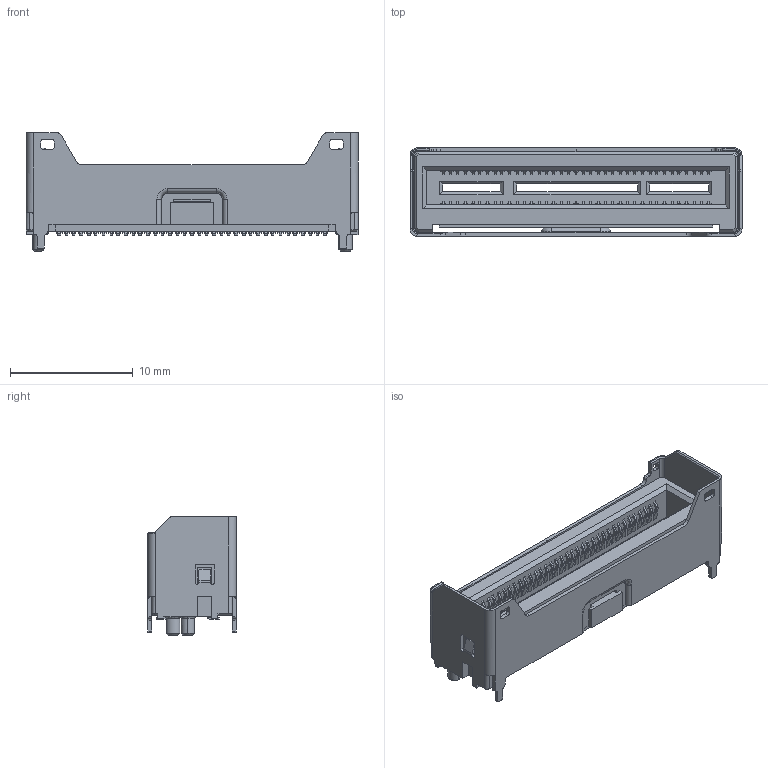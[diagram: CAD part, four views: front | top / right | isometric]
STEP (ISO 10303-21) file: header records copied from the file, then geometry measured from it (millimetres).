
FILE_DESCRIPTION((''),'2;1');
FILE_NAME('CUSTOMER_PPL074-3506-100-1H','2025-12-02T16:27:46',('10320193'),(''),'CREO PARAMETRIC BY PTC INC, 2019471','CREO PARAMETRIC BY PTC INC, 2019471','');
FILE_SCHEMA(('CONFIG_CONTROL_DESIGN'));
Products named in the file (1): CUSTOMER_PPL074-3506-100-1H
Bounding box: 27 x 7.18 x 9.65 mm (x, y, z)
Volume: 672.8 mm3; surface area: 1942.5 mm2
Topology: 1 solids, 1 shells, 5308 faces, 13695 edges, 8494 vertices
Faces by surface type: plane 4110, cylinder 1166, cone 16, torus 10, bspline 4, extrusion 2
Entity records: 159010 total; most frequent: CARTESIAN_POINT 29686, ORIENTED_EDGE 27390, DIRECTION 25711, EDGE_CURVE 13695, VECTOR 11267, LINE 11265, VERTEX_POINT 8494, AXIS2_PLACEMENT_3D 7222
